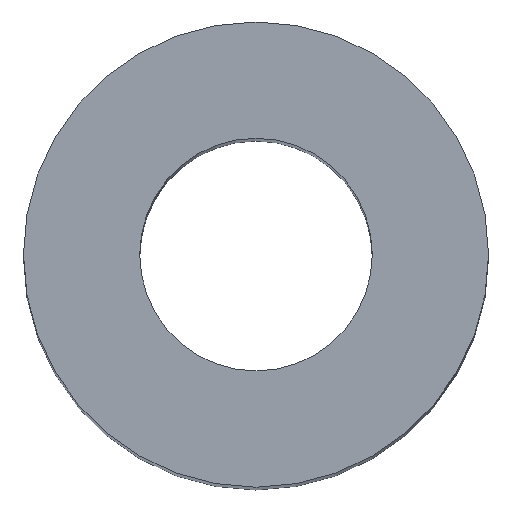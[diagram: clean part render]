
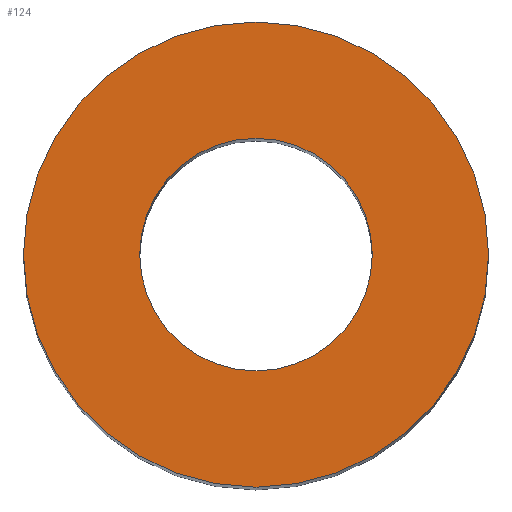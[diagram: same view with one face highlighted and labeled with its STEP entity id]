
A CAD part, top view. The second image highlights one B-rep face of the part: STEP entity #124.
In plain terms, the highlighted planar face has unit normal (0, 0, 1).
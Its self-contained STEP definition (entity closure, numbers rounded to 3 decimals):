
#3 = DIRECTION ( 'NONE',  ( 1., 0., 0. ) ) ;
#6 = AXIS2_PLACEMENT_3D ( 'NONE', #38, #20, #50 ) ;
#15 = CIRCLE ( 'NONE', #138, 20. ) ;
#16 = CIRCLE ( 'NONE', #185, 10. ) ;
#18 = DIRECTION ( 'NONE',  ( 1., 0., 0. ) ) ;
#20 = DIRECTION ( 'NONE',  ( 0., 0., 1. ) ) ;
#24 = DIRECTION ( 'NONE',  ( 0., 0., 1. ) ) ;
#28 = PLANE ( 'NONE',  #6 ) ;
#38 = CARTESIAN_POINT ( 'NONE',  ( 0., 0., 139. ) ) ;
#42 = AXIS2_PLACEMENT_3D ( 'NONE', #69, #178, #179 ) ;
#44 = CIRCLE ( 'NONE', #42, 10. ) ;
#45 = CARTESIAN_POINT ( 'NONE',  ( 0., 0., 139. ) ) ;
#46 = EDGE_CURVE ( 'NONE', #193, #104, #44, .T. ) ;
#50 = DIRECTION ( 'NONE',  ( 1., 0., 0. ) ) ;
#55 = FACE_BOUND ( 'NONE', #162, .T. ) ;
#69 = CARTESIAN_POINT ( 'NONE',  ( 0., 0., 139. ) ) ;
#70 = CARTESIAN_POINT ( 'NONE',  ( -20., 0., 139. ) ) ;
#87 = CARTESIAN_POINT ( 'NONE',  ( 0., 0., 139. ) ) ;
#89 = CARTESIAN_POINT ( 'NONE',  ( 0., 0., 139. ) ) ;
#91 = EDGE_CURVE ( 'NONE', #104, #193, #16, .T. ) ;
#92 = VERTEX_POINT ( 'NONE', #70 ) ;
#95 = CARTESIAN_POINT ( 'NONE',  ( 20., 0., 139. ) ) ;
#96 = ORIENTED_EDGE ( 'NONE', *, *, #106, .T. ) ;
#99 = AXIS2_PLACEMENT_3D ( 'NONE', #45, #24, #3 ) ;
#104 = VERTEX_POINT ( 'NONE', #175 ) ;
#106 = EDGE_CURVE ( 'NONE', #92, #111, #15, .T. ) ;
#111 = VERTEX_POINT ( 'NONE', #95 ) ;
#114 = EDGE_CURVE ( 'NONE', #111, #92, #173, .T. ) ;
#124 = ADVANCED_FACE ( 'NONE', ( #165, #55 ), #28, .T. ) ;
#132 = DIRECTION ( 'NONE',  ( 1., 0., 0. ) ) ;
#138 = AXIS2_PLACEMENT_3D ( 'NONE', #87, #151, #18 ) ;
#141 = EDGE_LOOP ( 'NONE', ( #96, #149 ) ) ;
#147 = DIRECTION ( 'NONE',  ( 0., 0., 1. ) ) ;
#149 = ORIENTED_EDGE ( 'NONE', *, *, #114, .T. ) ;
#151 = DIRECTION ( 'NONE',  ( 0., 0., 1. ) ) ;
#155 = ORIENTED_EDGE ( 'NONE', *, *, #91, .F. ) ;
#161 = ORIENTED_EDGE ( 'NONE', *, *, #46, .F. ) ;
#162 = EDGE_LOOP ( 'NONE', ( #161, #155 ) ) ;
#165 = FACE_OUTER_BOUND ( 'NONE', #141, .T. ) ;
#173 = CIRCLE ( 'NONE', #99, 20. ) ;
#175 = CARTESIAN_POINT ( 'NONE',  ( 10., 0., 139. ) ) ;
#178 = DIRECTION ( 'NONE',  ( 0., 0., 1. ) ) ;
#179 = DIRECTION ( 'NONE',  ( 1., 0., 0. ) ) ;
#185 = AXIS2_PLACEMENT_3D ( 'NONE', #89, #147, #132 ) ;
#193 = VERTEX_POINT ( 'NONE', #206 ) ;
#206 = CARTESIAN_POINT ( 'NONE',  ( -10., 0., 139. ) ) ;
